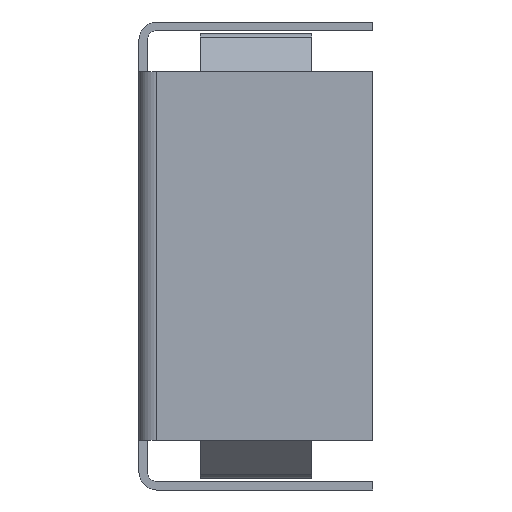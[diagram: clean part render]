
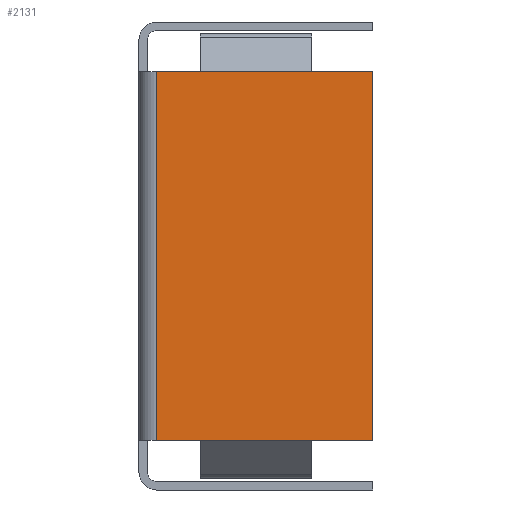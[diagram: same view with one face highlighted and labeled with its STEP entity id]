
A CAD part, left-side view. The second image highlights one B-rep face of the part: STEP entity #2131.
In plain terms, the highlighted planar face has unit normal (-1, 0, 0).
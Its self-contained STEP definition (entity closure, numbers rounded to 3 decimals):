
#380 = PLANE('',#381);
#381 = AXIS2_PLACEMENT_3D('',#382,#383,#384);
#382 = CARTESIAN_POINT('',(-3.425,3.925,-3.15));
#383 = DIRECTION('',(0.,0.,1.));
#384 = DIRECTION('',(1.,0.,0.));
#408 = CYLINDRICAL_SURFACE('',#409,0.3);
#409 = AXIS2_PLACEMENT_3D('',#410,#411,#412);
#410 = CARTESIAN_POINT('',(-3.7,3.7,-4.));
#411 = DIRECTION('',(0.,0.,-1.));
#412 = DIRECTION('',(0.,1.,0.));
#436 = PLANE('',#437);
#437 = AXIS2_PLACEMENT_3D('',#438,#439,#440);
#438 = CARTESIAN_POINT('',(-3.859,3.859,3.15));
#439 = DIRECTION('',(0.,0.,-1.));
#440 = DIRECTION('',(0.,-1.,0.));
#1844 = VERTEX_POINT('',#1845);
#1845 = CARTESIAN_POINT('',(-4.,0.,-3.15));
#1859 = PLANE('',#1860);
#1860 = AXIS2_PLACEMENT_3D('',#1861,#1862,#1863);
#1861 = CARTESIAN_POINT('',(-3.925,0.,0.));
#1862 = DIRECTION('',(0.,-1.,0.));
#1863 = DIRECTION('',(0.,0.,-1.));
#1871 = EDGE_CURVE('',#1844,#1872,#1874,.T.);
#1872 = VERTEX_POINT('',#1873);
#1873 = CARTESIAN_POINT('',(-4.,3.7,-3.15));
#1874 = SURFACE_CURVE('',#1875,(#1879,#1886),.PCURVE_S1.);
#1875 = LINE('',#1876,#1877);
#1876 = CARTESIAN_POINT('',(-4.,0.,-3.15));
#1877 = VECTOR('',#1878,1.);
#1878 = DIRECTION('',(0.,1.,0.));
#1879 = PCURVE('',#380,#1880);
#1880 = DEFINITIONAL_REPRESENTATION('',(#1881),#1885);
#1881 = LINE('',#1882,#1883);
#1882 = CARTESIAN_POINT('',(-0.575,-3.925));
#1883 = VECTOR('',#1884,1.);
#1884 = DIRECTION('',(0.,1.));
#1885 = ( GEOMETRIC_REPRESENTATION_CONTEXT(2) 
PARAMETRIC_REPRESENTATION_CONTEXT() REPRESENTATION_CONTEXT('2D SPACE',''
  ) );
#1886 = PCURVE('',#1887,#1892);
#1887 = PLANE('',#1888);
#1888 = AXIS2_PLACEMENT_3D('',#1889,#1890,#1891);
#1889 = CARTESIAN_POINT('',(-4.,0.,-4.));
#1890 = DIRECTION('',(-1.,0.,0.));
#1891 = DIRECTION('',(0.,0.,1.));
#1892 = DEFINITIONAL_REPRESENTATION('',(#1893),#1897);
#1893 = LINE('',#1894,#1895);
#1894 = CARTESIAN_POINT('',(0.85,0.));
#1895 = VECTOR('',#1896,1.);
#1896 = DIRECTION('',(0.,1.));
#1897 = ( GEOMETRIC_REPRESENTATION_CONTEXT(2) 
PARAMETRIC_REPRESENTATION_CONTEXT() REPRESENTATION_CONTEXT('2D SPACE',''
  ) );
#1927 = EDGE_CURVE('',#1872,#1928,#1930,.T.);
#1928 = VERTEX_POINT('',#1929);
#1929 = CARTESIAN_POINT('',(-4.,3.7,3.15));
#1930 = SURFACE_CURVE('',#1931,(#1935,#1942),.PCURVE_S1.);
#1931 = LINE('',#1932,#1933);
#1932 = CARTESIAN_POINT('',(-4.,3.7,-3.15));
#1933 = VECTOR('',#1934,1.);
#1934 = DIRECTION('',(0.,0.,1.));
#1935 = PCURVE('',#408,#1936);
#1936 = DEFINITIONAL_REPRESENTATION('',(#1937),#1941);
#1937 = LINE('',#1938,#1939);
#1938 = CARTESIAN_POINT('',(4.712,-0.85));
#1939 = VECTOR('',#1940,1.);
#1940 = DIRECTION('',(0.,-1.));
#1941 = ( GEOMETRIC_REPRESENTATION_CONTEXT(2) 
PARAMETRIC_REPRESENTATION_CONTEXT() REPRESENTATION_CONTEXT('2D SPACE',''
  ) );
#1942 = PCURVE('',#1887,#1943);
#1943 = DEFINITIONAL_REPRESENTATION('',(#1944),#1948);
#1944 = LINE('',#1945,#1946);
#1945 = CARTESIAN_POINT('',(0.85,3.7));
#1946 = VECTOR('',#1947,1.);
#1947 = DIRECTION('',(1.,0.));
#1948 = ( GEOMETRIC_REPRESENTATION_CONTEXT(2) 
PARAMETRIC_REPRESENTATION_CONTEXT() REPRESENTATION_CONTEXT('2D SPACE',''
  ) );
#1980 = EDGE_CURVE('',#1981,#1928,#1983,.T.);
#1981 = VERTEX_POINT('',#1982);
#1982 = CARTESIAN_POINT('',(-4.,0.,3.15));
#1983 = SURFACE_CURVE('',#1984,(#1988,#1995),.PCURVE_S1.);
#1984 = LINE('',#1985,#1986);
#1985 = CARTESIAN_POINT('',(-4.,0.,3.15));
#1986 = VECTOR('',#1987,1.);
#1987 = DIRECTION('',(0.,1.,0.));
#1988 = PCURVE('',#436,#1989);
#1989 = DEFINITIONAL_REPRESENTATION('',(#1990),#1994);
#1990 = LINE('',#1991,#1992);
#1991 = CARTESIAN_POINT('',(3.859,0.141));
#1992 = VECTOR('',#1993,1.);
#1993 = DIRECTION('',(-1.,-0.));
#1994 = ( GEOMETRIC_REPRESENTATION_CONTEXT(2) 
PARAMETRIC_REPRESENTATION_CONTEXT() REPRESENTATION_CONTEXT('2D SPACE',''
  ) );
#1995 = PCURVE('',#1887,#1996);
#1996 = DEFINITIONAL_REPRESENTATION('',(#1997),#2001);
#1997 = LINE('',#1998,#1999);
#1998 = CARTESIAN_POINT('',(7.15,0.));
#1999 = VECTOR('',#2000,1.);
#2000 = DIRECTION('',(0.,1.));
#2001 = ( GEOMETRIC_REPRESENTATION_CONTEXT(2) 
PARAMETRIC_REPRESENTATION_CONTEXT() REPRESENTATION_CONTEXT('2D SPACE',''
  ) );
#2131 = ADVANCED_FACE('',(#2132),#1887,.T.);
#2132 = FACE_BOUND('',#2133,.T.);
#2133 = EDGE_LOOP('',(#2134,#2135,#2136,#2157));
#2134 = ORIENTED_EDGE('',*,*,#1927,.F.);
#2135 = ORIENTED_EDGE('',*,*,#1871,.F.);
#2136 = ORIENTED_EDGE('',*,*,#2137,.T.);
#2137 = EDGE_CURVE('',#1844,#1981,#2138,.T.);
#2138 = SURFACE_CURVE('',#2139,(#2143,#2150),.PCURVE_S1.);
#2139 = LINE('',#2140,#2141);
#2140 = CARTESIAN_POINT('',(-4.,0.,-3.15));
#2141 = VECTOR('',#2142,1.);
#2142 = DIRECTION('',(0.,0.,1.));
#2143 = PCURVE('',#1887,#2144);
#2144 = DEFINITIONAL_REPRESENTATION('',(#2145),#2149);
#2145 = LINE('',#2146,#2147);
#2146 = CARTESIAN_POINT('',(0.85,0.));
#2147 = VECTOR('',#2148,1.);
#2148 = DIRECTION('',(1.,0.));
#2149 = ( GEOMETRIC_REPRESENTATION_CONTEXT(2) 
PARAMETRIC_REPRESENTATION_CONTEXT() REPRESENTATION_CONTEXT('2D SPACE',''
  ) );
#2150 = PCURVE('',#1859,#2151);
#2151 = DEFINITIONAL_REPRESENTATION('',(#2152),#2156);
#2152 = LINE('',#2153,#2154);
#2153 = CARTESIAN_POINT('',(3.15,-0.075));
#2154 = VECTOR('',#2155,1.);
#2155 = DIRECTION('',(-1.,0.));
#2156 = ( GEOMETRIC_REPRESENTATION_CONTEXT(2) 
PARAMETRIC_REPRESENTATION_CONTEXT() REPRESENTATION_CONTEXT('2D SPACE',''
  ) );
#2157 = ORIENTED_EDGE('',*,*,#1980,.T.);
